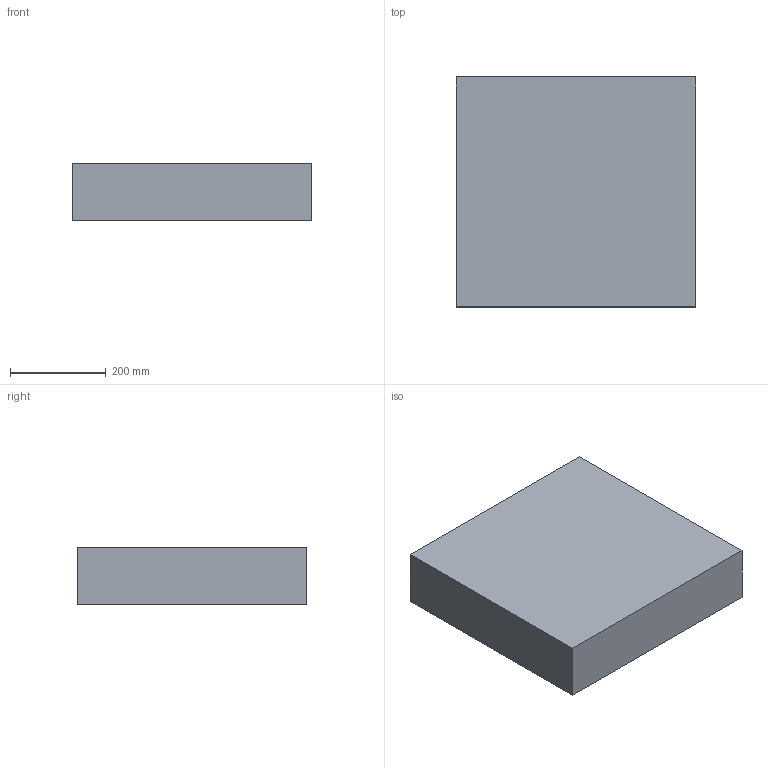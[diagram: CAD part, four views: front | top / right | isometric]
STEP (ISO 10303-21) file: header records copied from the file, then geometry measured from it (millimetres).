
FILE_DESCRIPTION(/* description */ (''),/* implementation_level */ '2;1');
FILE_NAME(/* name */ 'EG Plan 400.stp',/* time_stamp */ '2024-09-27T11:21:22+02:00',/* author */ ('d.streicher'),/* organization */ (''),/* preprocessor_version */ 'ST-DEVELOPER v20',/* originating_system */ 'Autodesk Inventor 2025',/* authorisation */ '');
FILE_SCHEMA (('AUTOMOTIVE_DESIGN { 1 0 10303 214 3 1 1 }'));
Length unit declared in the file: millimetre
Products named in the file (1): EG Plan 400
Bounding box: 500 x 480 x 120 mm (x, y, z)
Volume: 5430971.9 mm3; surface area: 1101845.5 mm2
Topology: 1 solids, 1 shells, 24 faces, 60 edges, 40 vertices
Faces by surface type: plane 16, cylinder 8
Full cylindrical faces by diameter (mm): 3 x4
Entity records: 812 total; most frequent: DIRECTION 126, CARTESIAN_POINT 125, ORIENTED_EDGE 120, EDGE_CURVE 60, LINE 44, VECTOR 44, AXIS2_PLACEMENT_3D 41, VERTEX_POINT 40
